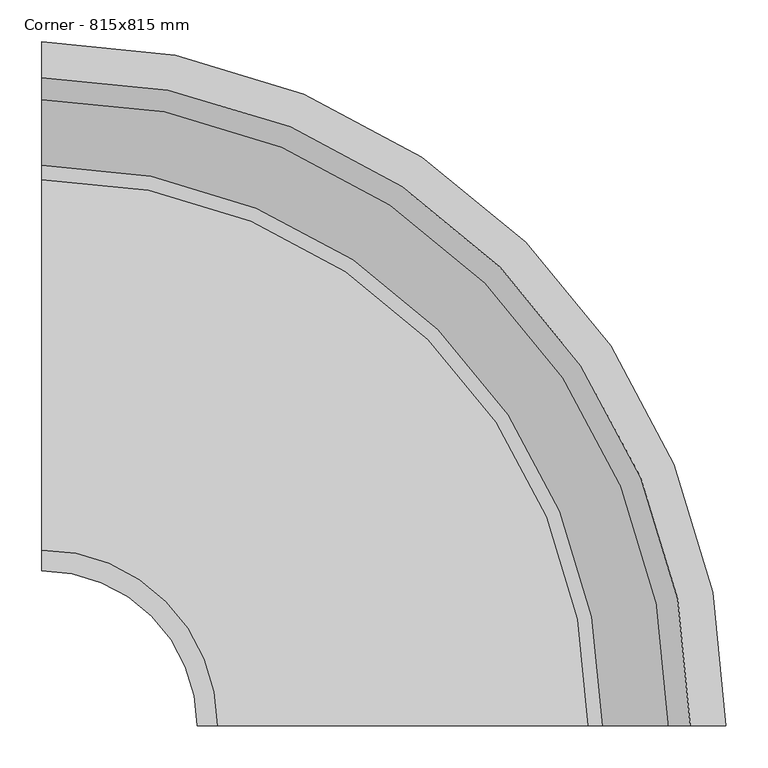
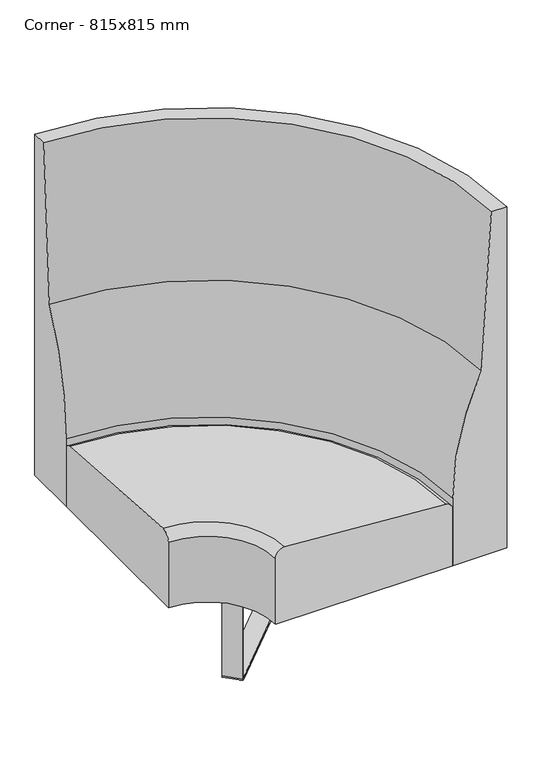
"""IFC4 building model written with IfcOpenShell, lengths in millimetres: furniture geometry, MATERIA-Monolite-Sofa-Corner : Corner - 815x815 mm."""

import ifcopenshell
import ifcopenshell.guid

model = None  # the IFC model being written
_history = None  # IfcOwnerHistory: only IFC2X3 demands one
_inside = {}  # id of a spatial element -> (the spatial element, [elements in it])
_under = {}  # id of a project, library or spatial element -> (it, [spatial elements below it])
_declared = {}  # id of a project -> (the project, [libraries it declares])
_typed = {}  # id of a type object -> (the type object, [elements of that type])
_made_of = {}  # id of a material, layer set ... -> (it, [elements and type objects made of it])


def new_model(schema):
    """Start an empty IFC model of exactly this schema.

    Asked for "IFC4X3", IfcOpenShell would pick the latest addendum, in which some entities
    have other attributes; the version numbers below select the first issue.
    IFC2X3 requires an IfcOwnerHistory on every rooted entity: one is made here for all.
    """
    global model, _history
    if schema == "IFC4X3":
        model = ifcopenshell.file(schema_version=(4, 3, 0, 0))
    else:
        model = ifcopenshell.file(schema=schema)
    _inside.clear()
    _under.clear()
    _declared.clear()
    _typed.clear()
    _made_of.clear()
    _history = None
    if model.schema == "IFC2X3":
        org = make("IfcOrganization", Name="unknown")
        user = make(
            "IfcPersonAndOrganization",
            ThePerson=make("IfcPerson", FamilyName="unknown"),
            TheOrganization=org,
        )
        app = make(
            "IfcApplication",
            ApplicationDeveloper=org,
            Version="unknown",
            ApplicationFullName="unknown",
            ApplicationIdentifier="unknown",
        )
        _history = make(
            "IfcOwnerHistory",
            OwningUser=user,
            OwningApplication=app,
            ChangeAction="ADDED",
            CreationDate=0,
        )
    return model


def make(cls, **values):
    """One entity of the class cls with the attributes given. An attribute that is None is left unset."""
    return model.create_entity(
        cls, **{name: value for name, value in values.items() if value is not None}
    )


def rooted(cls, **values):
    """An entity with a GlobalId (a new one), such as an element, a storey or a relation."""
    return make(cls, GlobalId=ifcopenshell.guid.new(), OwnerHistory=_history, **values)


def si_unit(unit_type, name, prefix=None):
    """IfcSIUnit, for example si_unit("LENGTHUNIT", "METRE", prefix="MILLI")."""
    return make("IfcSIUnit", UnitType=unit_type, Prefix=prefix, Name=name)


def assignment(units):
    """IfcUnitAssignment: the units of a project."""
    return None if units is None else make("IfcUnitAssignment", Units=units)


def point(xyz):
    """IfcCartesianPoint."""
    return None if xyz is None else make("IfcCartesianPoint", Coordinates=xyz)


def direction(xyz):
    """IfcDirection."""
    return None if xyz is None else make("IfcDirection", DirectionRatios=xyz)


def frame(location, z_axis=None, x_axis=None):
    """IfcAxis2Placement3D, a coordinate frame: its origin and axes. An axis left out is left unset."""
    return make(
        "IfcAxis2Placement3D",
        Location=point(location),
        Axis=direction(z_axis),
        RefDirection=direction(x_axis),
    )


def frame_2d(location, x_axis=None):
    """IfcAxis2Placement2D, a coordinate frame in the plane: its origin and x axis."""
    return make(
        "IfcAxis2Placement2D", Location=point(location), RefDirection=direction(x_axis)
    )


def origin():
    """The frame at (0, 0, 0) with its axes left unset."""
    return frame((0.0, 0.0, 0.0))


def place(relative_to, where):
    """IfcLocalPlacement: puts the frame where relative to a parent placement (None: the world)."""
    return make(
        "IfcLocalPlacement", PlacementRelTo=relative_to, RelativePlacement=where
    )


def context(
    kind, dimensions, precision=None, world=None, true_north=None, identifier=None
):
    """IfcGeometricRepresentationContext, for example the 3D "Model" context."""
    return make(
        "IfcGeometricRepresentationContext",
        ContextIdentifier=identifier,
        ContextType=kind,
        CoordinateSpaceDimension=dimensions,
        Precision=precision,
        WorldCoordinateSystem=world,
        TrueNorth=true_north,
    )


def project(units=None, contexts=None):
    """IfcProject with its units and contexts."""
    return rooted(
        "IfcProject",
        Name="project",
        RepresentationContexts=contexts,
        UnitsInContext=assignment(units),
    )


def spatial(cls, under=None, at=None, **own):
    """A site, building, storey or space (cls), placed at a placement, below another one or the project."""
    s = rooted(cls, ObjectPlacement=at, **own)
    if under is not None:
        _under.setdefault(under.id(), (under, []))[1].append(s)
    return s


def polyline(points):
    """IfcPolyline through the points."""
    return make("IfcPolyline", Points=[point(p) for p in points])


def circle_curve(where, radius):
    """IfcCircle in the frame where."""
    return make("IfcCircle", Position=where, Radius=radius)


def ellipse_curve(where, semi_axis1, semi_axis2):
    """IfcEllipse in the frame where."""
    return make(
        "IfcEllipse", Position=where, SemiAxis1=semi_axis1, SemiAxis2=semi_axis2
    )


def trimmed(basis, trim1, trim2, sense, master):
    """IfcTrimmedCurve: the piece of a basis curve between two trims."""
    return make(
        "IfcTrimmedCurve",
        BasisCurve=basis,
        Trim1=trim1,
        Trim2=trim2,
        SenseAgreement=sense,
        MasterRepresentation=master,
    )


def segment(curve, same_sense, transition):
    """IfcCompositeCurveSegment."""
    return make(
        "IfcCompositeCurveSegment",
        Transition=transition,
        SameSense=same_sense,
        ParentCurve=curve,
    )


def composite_curve(segments, self_intersect=None):
    """IfcCompositeCurve: segments joined end to end."""
    return make("IfcCompositeCurve", Segments=segments, SelfIntersect=self_intersect)


def outline(outer, holes=None, kind="AREA"):
    """IfcArbitraryClosedProfileDef: a profile drawn as a closed curve; with holes, ...WithVoids."""
    if holes is None:
        return make("IfcArbitraryClosedProfileDef", ProfileType=kind, OuterCurve=outer)
    return make(
        "IfcArbitraryProfileDefWithVoids",
        ProfileType=kind,
        OuterCurve=outer,
        InnerCurves=holes,
    )


def extrude(swept, where, along, depth):
    """IfcExtrudedAreaSolid: the profile swept, set in the frame where, extruded along a direction by depth."""
    return make(
        "IfcExtrudedAreaSolid",
        SweptArea=swept,
        Position=where,
        ExtrudedDirection=direction(along),
        Depth=depth,
    )


def shape(context_of_items, identifier, shape_type, items):
    """IfcShapeRepresentation: the items that make up one representation, for example the "Body"."""
    return make(
        "IfcShapeRepresentation",
        ContextOfItems=context_of_items,
        RepresentationIdentifier=identifier,
        RepresentationType=shape_type,
        Items=items,
    )


def source(mapping_origin, context_of_items, identifier, shape_type, items):
    """IfcRepresentationMap: a shape defined once, which mapped items show again and again."""
    return make(
        "IfcRepresentationMap",
        MappingOrigin=mapping_origin,
        MappedRepresentation=shape(context_of_items, identifier, shape_type, items),
    )


def transform(
    local_origin,
    x_axis=None,
    y_axis=None,
    z_axis=None,
    scale=None,
    scale2=None,
    scale3=None,
    uniform=True,
):
    """IfcCartesianTransformationOperator3D, or its non-uniform kind. x_axis, y_axis, z_axis: its Axis1, 2, 3."""
    if uniform:
        return make(
            "IfcCartesianTransformationOperator3D",
            Axis1=direction(x_axis),
            Axis2=direction(y_axis),
            LocalOrigin=point(local_origin),
            Scale=scale,
            Axis3=direction(z_axis),
        )
    return make(
        "IfcCartesianTransformationOperator3DnonUniform",
        Axis1=direction(x_axis),
        Axis2=direction(y_axis),
        LocalOrigin=point(local_origin),
        Scale=scale,
        Axis3=direction(z_axis),
        Scale2=scale2,
        Scale3=scale3,
    )


def mapped(mapping_source, mapping_target):
    """IfcMappedItem: shows the shape of a source again, moved by a transform."""
    return make(
        "IfcMappedItem", MappingSource=mapping_source, MappingTarget=mapping_target
    )


def made_of(thing, what):
    """Note that an element or type object is made of a material, layer set ...; save() writes the relation."""
    if what is not None:
        _made_of.setdefault(what.id(), (what, []))[1].append(thing)
    return thing


def element(
    cls,
    number,
    at=None,
    inside=None,
    cuts=None,
    type_object=None,
    material=None,
    context=None,
    identifier="Body",
    shape_type=None,
    held_by="IfcProductDefinitionShape",
    body=None,
    shapes=None,
    **own,
):
    """One element of the class cls, such as IfcWall. Its Tag is "e" and its number.

    at: its placement. inside: the storey or other place that contains it. cuts: it is an
    opening in that element (IfcRelVoidsElement). A single representation is given by context,
    identifier, shape_type and body (its items); several are given by shapes. held_by: the class
    of the entity that holds the representations. save() writes the other relations.
    """
    e = rooted(cls, Tag="e%d" % number, ObjectPlacement=at, **own)
    if body is not None:
        shapes = [shape(context, identifier, shape_type, body)]
    if shapes is not None:
        e.Representation = make(held_by, Representations=shapes)
    if inside is not None:
        _inside.setdefault(inside.id(), (inside, []))[1].append(e)
    if cuts is not None:
        rooted(
            "IfcRelVoidsElement", RelatingBuildingElement=cuts, RelatedOpeningElement=e
        )
    if type_object is not None:
        _typed.setdefault(type_object.id(), (type_object, []))[1].append(e)
    return made_of(e, material)


def aggregate(whole, parts):
    """IfcRelAggregates: a whole, such as a stair, and the parts it consists of."""
    return rooted("IfcRelAggregates", RelatingObject=whole, RelatedObjects=parts)


def save(model, path):
    """Write the relations noted so far, then the file.

    IfcRelAggregates (storeys below a building ...), IfcRelContainedInSpatialStructure (elements
    in a storey), IfcRelDefinesByType, IfcRelAssociatesMaterial and IfcRelDeclares: one each for
    every whole, place, type object, material and project.
    """
    for whole, parts in _under.values():
        aggregate(whole, parts)
    for where, things in _inside.values():
        rooted(
            "IfcRelContainedInSpatialStructure",
            RelatedElements=things,
            RelatingStructure=where,
        )
    for kind, things in _typed.values():
        rooted("IfcRelDefinesByType", RelatedObjects=things, RelatingType=kind)
    for what, things in _made_of.values():
        rooted("IfcRelAssociatesMaterial", RelatedObjects=things, RelatingMaterial=what)
    for by, libraries in _declared.values():
        rooted("IfcRelDeclares", RelatingContext=by, RelatedDefinitions=libraries)
    model.write(path)


def plane_surface(at):
    """IfcPlane: the flat surface through the origin of the frame at, square to its z axis."""
    return make("IfcPlane", Position=at)


def cylinder_surface(at, radius):
    """IfcCylindricalSurface: all points at the distance radius from the z axis of the frame at."""
    return make("IfcCylindricalSurface", Position=at, Radius=radius)


def revolved_surface(curve, axis_point, axis_direction):
    """IfcSurfaceOfRevolution: the curve turned about the line through axis_point along axis_direction."""
    return make(
        "IfcSurfaceOfRevolution",
        SweptCurve=make("IfcArbitraryOpenProfileDef", ProfileType="CURVE", Curve=curve),
        AxisPosition=make("IfcAxis1Placement", Location=point(axis_point), Axis=direction(axis_direction)),
    )


def advanced_brep(points, edges, surfaces, faces):
    """IfcAdvancedBrep: a solid bounded by faces that lie on surfaces and meet in shared edges.

    An edge is (start, end): straight between two places in points (the first is 0);
    or (start, end, curve); or (start, end, curve, False) where it runs against its curve.
    A face is (place in surfaces, loops), or (place, loops, False) where it looks against
    its surface's normal. A loop lists edges by number (the first is 1), with a minus sign
    where the edge is run from its end to its start. The first loop is the outer one.
    """
    corners = [point(p) for p in points]
    vertices = [make("IfcVertexPoint", VertexGeometry=c) for c in corners]
    made = []
    for start, end, *more in edges:
        made.append(
            make(
                "IfcEdgeCurve",
                EdgeStart=vertices[start],
                EdgeEnd=vertices[end],
                EdgeGeometry=more[0] if more else make("IfcPolyline", Points=[corners[start], corners[end]]),
                SameSense=more[1] if len(more) > 1 else True,
            )
        )
    hull = []
    for where, loops, *sense in faces:
        bounds = []
        for j, loop in enumerate(loops):
            ring = [make("IfcOrientedEdge", EdgeElement=made[abs(k) - 1], Orientation=k > 0) for k in loop]
            bounds.append(
                make(
                    "IfcFaceOuterBound" if j == 0 else "IfcFaceBound",
                    Bound=make("IfcEdgeLoop", EdgeList=ring),
                    Orientation=True,
                )
            )
        hull.append(make("IfcAdvancedFace", Bounds=bounds, FaceSurface=surfaces[where], SameSense=sense[0] if sense else True))
    return make("IfcAdvancedBrep", Outer=make("IfcClosedShell", CfsFaces=hull))


def corner_815x815_mm_a8b0d3e5(model_context):
    return source(origin(), model_context, "Body", "SolidModel", [
        extrude(outline(composite_curve([segment(trimmed(circle_curve(frame_2d((100.0000212, -8.0)), 8.0), [point((100.0000212, 0.0))], [point((108.0000212, -8.0))], False, "CARTESIAN"), True, "CONTINUOUS"), segment(polyline([(108.0000212, -8.0), (108.0000212, -239.0000149)]), True, "CONTINUOUS"), segment(trimmed(circle_curve(frame_2d((100.0000212, -239.0000149)), 8.0), [point((108.0000212, -239.0000149))], [point((100.0000212, -247.0000149))], False, "CARTESIAN"), True, "CONTINUOUS"), segment(polyline([(100.0000212, -247.0000149), (-458.9999496, -247.0000149)]), True, "CONTINUOUS"), segment(trimmed(circle_curve(frame_2d((-458.9999496, -239.0000149)), 8.0), [point((-458.9999496, -247.0000149))], [point((-466.9999496, -239.0000149))], False, "CARTESIAN"), True, "CONTINUOUS"), segment(polyline([(-466.9999496, -239.0000149), (-466.9999496, 1.0000001), (-460.9999496, 1.0000001), (-460.9999496, -239.0000149)]), True, "CONTINUOUS"), segment(trimmed(circle_curve(frame_2d((-458.9999496, -239.0000149)), 2.0), [point((-460.9999496, -239.0000149))], [point((-458.9999496, -241.0000149))], True, "CARTESIAN"), True, "CONTINUOUS"), segment(polyline([(-458.9999496, -241.0000149), (100.0000212, -241.0000149)]), True, "CONTINUOUS"), segment(trimmed(circle_curve(frame_2d((100.0000212, -239.0000149)), 2.0), [point((100.0000212, -241.0000149))], [point((102.0000212, -239.0000149))], True, "CARTESIAN"), True, "CONTINUOUS"), segment(polyline([(102.0000212, -239.0000149), (102.0000212, -8.0)]), True, "CONTINUOUS"), segment(trimmed(circle_curve(frame_2d((100.0000212, -8.0)), 2.0), [point((102.0000212, -8.0))], [point((100.0000212, -6.0))], True, "CARTESIAN"), True, "CONTINUOUS"), segment(polyline([(100.0000212, -6.0), (0.0, -6.0), (0.0, 0.0), (100.0000212, 0.0)]), True, "CONTINUOUS")], self_intersect=False)), frame((253.1443298, -597.2111783, 247.0000149), z_axis=(-0.7071067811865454, 0.7071067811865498, 0.0), x_axis=(-0.7071067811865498, -0.7071067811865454, 0.0)), (0.0, 0.0, 1.0), 50.0000863),
        advanced_brep(
        [(0.0, -147.0001019, 248.000015), (0.0, -147.0001019, 442.0000309), (0.0, -68.6092161, 781.5482615), (0.0, -42.4770459, 1230.0), (0.0, -6.29e-05, 1230.0), (0.0, -6.29e-05, 248.000015), (667.9998608, -814.9999626, 248.000015), (814.9998997, -814.9999626, 248.000015), (814.9998997, -814.9999626, 1230.0), (772.5229167, -814.9999626, 1230.0), (746.3907466, -814.9999626, 781.5482615), (667.9998608, -814.9999626, 442.0000309)],
        [
            (0, 1),
            (1, 2, circle_curve(frame((0.0, 627.5678255, 442.0000309), z_axis=(-1.0, 0.0, 0.0), x_axis=(0.0, 1.0, 0.0)), 774.5679273)),
            (2, 3, circle_curve(frame((0.0, 4491.927718, 740.7840063), z_axis=(-1.0, 0.0, 0.0), x_axis=(0.0, 1.0, 0.0)), 4560.7191156)),
            (3, 4),
            (4, 5),
            (5, 0),
            (6, 7),
            (7, 8),
            (8, 9),
            (9, 10, circle_curve(frame((5306.9276806, -814.9999626, 740.7840063), z_axis=(0.0, -1.0, 0.0), x_axis=(1.0, 0.0, 0.0)), 4560.7191156)),
            (10, 11, circle_curve(frame((1442.5677881, -814.9999626, 442.0000309), z_axis=(0.0, -1.0, 0.0), x_axis=(1.0, 0.0, 0.0)), 774.5679273)),
            (11, 6),
            (6, 0, circle_curve(frame((0.0, -814.9999626, 248.000015), z_axis=(0.0, 0.0, 1.0), x_axis=(0.0, 1.0, 0.0)), 667.9998608)),
            (5, 7, circle_curve(frame((0.0, -814.9999626, 248.000015), z_axis=(0.0, 0.0, -1.0), x_axis=(0.0, 1.0, 0.0)), 814.9998997)),
            (4, 8, circle_curve(frame((0.0, -814.9999626, 1230.0), z_axis=(0.0, 0.0, -1.0), x_axis=(0.0, 1.0, 0.0)), 814.9998997)),
            (3, 9, circle_curve(frame((0.0, -814.9999626, 1230.0), z_axis=(0.0, 0.0, -1.0), x_axis=(0.0, 1.0, 0.0)), 772.5229167)),
            (2, 10, circle_curve(frame((0.0, -814.9999626, 781.5482615), z_axis=(0.0, 0.0, -1.0), x_axis=(0.0, 1.0, 0.0)), 746.3907466)),
            (1, 11, circle_curve(frame((0.0, -814.9999626, 442.0000309), z_axis=(0.0, 0.0, -1.0), x_axis=(0.0, 1.0, 0.0)), 667.9998608)),
        ],
        [
            plane_surface(frame((0.0, -814.9999626, 1366.000021), z_axis=(-1.0, 0.0, 0.0), x_axis=(0.0, 1.0, 0.0))),
            plane_surface(frame((0.0, -814.9999626, 1366.000021), z_axis=(0.0, -1.0, 0.0), x_axis=(1.0, 0.0, 0.0))),
            plane_surface(frame((0.0, -814.9999626, 248.000015), z_axis=(0.0, 0.0, -1.0), x_axis=(0.0, 1.0, 0.0))),
            cylinder_surface(frame((0.0, -814.9999626, 1366.000021), z_axis=(0.0, 0.0, 1.0), x_axis=(0.0, 1.0, 0.0)), 814.9998997),
            plane_surface(frame((0.0, -814.9999626, 1230.0), z_axis=(0.0, 0.0, 1.0), x_axis=(0.0, 1.0, 0.0))),
            revolved_surface(trimmed(ellipse_curve(frame((0.0, 4491.927718, 740.7840063), z_axis=(1.0, 0.0, 0.0), x_axis=(0.0, 1.0, 0.0)), 4560.7191156, 4560.7191156), [point((0.0, -42.4770459, 1230.0))], [point((0.0, -68.6092161, 781.5482615))], True, "CARTESIAN"), (0.0, -814.9999626, 1366.000021), (0.0, 0.0, 1.0)),
            revolved_surface(trimmed(ellipse_curve(frame((0.0, 627.5678255, 442.0000309), z_axis=(1.0, 0.0, 0.0), x_axis=(0.0, 1.0, 0.0)), 774.5679273, 774.5679273), [point((0.0, -68.6092161, 781.5482615))], [point((0.0, -147.0001019, 442.0000309))], True, "CARTESIAN"), (0.0, -814.9999626, 1366.000021), (0.0, 0.0, 1.0)),
            revolved_surface(polyline([(0.0, -147.00010180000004, 442.00003089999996), (0.0, -147.00010180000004, 248.00001500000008)]), (0.0, -814.9999626, 1366.000021), (0.0, 0.0, 1.0)),
        ],
        [
            (0, [[1, 2, 3, 4, 5, 6]]),
            (1, [[7, 8, 9, 10, 11, 12]]),
            (2, [[13, -6, 14, -7]]),
            (3, [[-14, -5, 15, -8]]),
            (4, [[-15, -4, 16, -9]]),
            (5, [[-16, -3, 17, -10]]),
            (6, [[-17, -2, 18, -11]]),
            (7, [[-18, -1, -13, -12]]),
        ],
    ),
        advanced_brep(
        [(667.9998608, -814.9999626, 248.000015), (667.9998608, -814.9999626, 410.5899518), (651.2039882, -814.9999626, 430.3316226), (209.5888518, -814.9999626, 462.2849846), (184.9998997, -814.9999626, 437.2884276), (184.9998997, -814.9999626, 248.000015), (0.0, -147.0001019, 248.000015), (0.0, -630.0000629, 248.000015), (0.0, -630.0000629, 437.2884276), (0.0, -605.4111108, 462.2849846), (0.0, -163.7959745, 430.3316226), (0.0, -147.0001019, 410.5899518)],
        [
            (0, 1),
            (1, 2, circle_curve(frame((647.9998608, -814.9999626, 410.5899518), z_axis=(0.0, -1.0000000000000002, 0.0), x_axis=(1.0000000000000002, 0.0, 0.0)), 20.0)),
            (2, 3, circle_curve(frame((250.6873577, -814.9999626, -2037.3815818), z_axis=(0.0, -1.0000000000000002, 0.0), x_axis=(1.0000000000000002, 0.0, 0.0)), 2500.0044061)),
            (3, 4, circle_curve(frame((209.9998351, -814.9999626, 437.2884276), z_axis=(0.0, -1.0000000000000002, 0.0), x_axis=(1.0000000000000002, 0.0, 0.0)), 24.9999354)),
            (4, 5),
            (5, 0),
            (6, 7),
            (7, 8),
            (8, 9, circle_curve(frame((0.0, -605.0001275, 437.2884276), z_axis=(-1.0000000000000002, 0.0, 0.0), x_axis=(0.0, 1.0000000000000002, 0.0)), 24.9999354)),
            (9, 10, circle_curve(frame((0.0, -564.3126049, -2037.3815818), z_axis=(-1.0000000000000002, 0.0, 0.0), x_axis=(0.0, 1.0000000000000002, 0.0)), 2500.0044061)),
            (10, 11, circle_curve(frame((0.0, -167.0001019, 410.5899518), z_axis=(-1.0000000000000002, 0.0, 0.0), x_axis=(0.0, 1.0000000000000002, 0.0)), 20.0)),
            (11, 6),
            (11, 1, circle_curve(frame((0.0, -814.9999626, 410.5899518), z_axis=(0.0, 0.0, -1.0), x_axis=(1.0000000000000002, 0.0, 0.0)), 667.9998608)),
            (0, 6, circle_curve(frame((0.0, -814.9999626, 248.000015), z_axis=(0.0, 0.0, 1.0), x_axis=(1.0000000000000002, 0.0, 0.0)), 667.9998608)),
            (10, 2, circle_curve(frame((0.0, -814.9999626, 430.3316226), z_axis=(0.0, 0.0, -1.0), x_axis=(1.0000000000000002, 0.0, 0.0)), 651.2039882)),
            (9, 3, circle_curve(frame((0.0, -814.9999626, 462.2849846), z_axis=(0.0, 0.0, -1.0), x_axis=(1.0000000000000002, 0.0, 0.0)), 209.5888518)),
            (8, 4, circle_curve(frame((0.0, -814.9999626, 437.2884276), z_axis=(0.0, 0.0, -1.0), x_axis=(1.0000000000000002, 0.0, 0.0)), 184.9998997)),
            (7, 5, circle_curve(frame((0.0, -814.9999626, 248.000015), z_axis=(0.0, 0.0, -1.0), x_axis=(1.0000000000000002, 0.0, 0.0)), 184.9998997)),
        ],
        [
            plane_surface(frame((0.0, -814.9999626, -280.0), z_axis=(0.0, -1.0, 0.0), x_axis=(1.0, 0.0, 0.0))),
            plane_surface(frame((0.0, -814.9999626, -280.0), z_axis=(-1.0, 0.0, 0.0), x_axis=(0.0, 1.0, 0.0))),
            cylinder_surface(frame((0.0, -814.9999626, -280.0), z_axis=(0.0, 0.0, 1.0), x_axis=(1.0000000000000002, 0.0, 0.0)), 667.9998608),
            revolved_surface(trimmed(ellipse_curve(frame((647.9998608, -814.9999626, 410.5899518), z_axis=(0.0, -1.0000000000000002, 0.0), x_axis=(1.0000000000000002, 0.0, 0.0)), 20.0, 20.0), [point((667.9998608, -814.9999626, 410.5899518))], [point((651.2039882, -814.9999626, 430.3316226))], True, "CARTESIAN"), (0.0, -814.9999626, -280.0), (0.0, 0.0, 1.0)),
            revolved_surface(trimmed(ellipse_curve(frame((250.6873577, -814.9999626, -2037.3815818), z_axis=(0.0, -1.0000000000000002, 0.0), x_axis=(1.0000000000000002, 0.0, 0.0)), 2500.0044061, 2500.0044061), [point((651.2039882, -814.9999626, 430.3316226))], [point((209.5888518, -814.9999626, 462.2849846))], True, "CARTESIAN"), (0.0, -814.9999626, -280.0), (0.0, 0.0, 1.0)),
            revolved_surface(trimmed(ellipse_curve(frame((209.9998351, -814.9999626, 437.2884276), z_axis=(0.0, -1.0000000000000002, 0.0), x_axis=(1.0000000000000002, 0.0, 0.0)), 24.9999354, 24.9999354), [point((209.5888518, -814.9999626, 462.2849846))], [point((184.9998997, -814.9999626, 437.2884276))], True, "CARTESIAN"), (0.0, -814.9999626, -280.0), (0.0, 0.0, 1.0)),
            revolved_surface(polyline([(184.99989970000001, -814.9999626, 437.2884276), (184.99989970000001, -814.9999626, 248.00001499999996)]), (0.0, -814.9999626, -280.0), (0.0, 0.0, 1.0)),
            plane_surface(frame((0.0, -814.9999626, 248.000015), z_axis=(0.0, 0.0, -1.0), x_axis=(1.0, 0.0, 0.0))),
        ],
        [
            (0, [[1, 2, 3, 4, 5, 6]]),
            (1, [[7, 8, 9, 10, 11, 12]]),
            (2, [[13, -1, 14, -12]]),
            (3, [[15, -2, -13, -11]]),
            (4, [[16, -3, -15, -10]]),
            (5, [[17, -4, -16, -9]]),
            (6, [[18, -5, -17, -8]]),
            (7, [[-14, -6, -18, -7]]),
        ],
    ),
    ])


if __name__ == "__main__":
    model = new_model("IFC4")
    model_context = context("Model", 3, world=origin())
    ifc_project = project(units=[si_unit("LENGTHUNIT", "METRE", prefix="MILLI")], contexts=[model_context])
    site = spatial("IfcSite", under=ifc_project)
    building = spatial("IfcBuilding", under=site)
    placement = place(None, origin())
    corner_815x815_mm_shape = corner_815x815_mm_a8b0d3e5(model_context)
    element("IfcFurniture", 1, ObjectType="MATERIA-Monolite-Sofa-Corner : Corner - 815x815 mm", at=placement, inside=building, context=model_context, shape_type="MappedRepresentation", body=[
        mapped(corner_815x815_mm_shape, transform((0.0, 0.0, 0.0), x_axis=(1.0, 0.0, 0.0), y_axis=(0.0, 1.0, 0.0), z_axis=(0.0, 0.0, 1.0))),
    ])
    save(model, "model.ifc")
